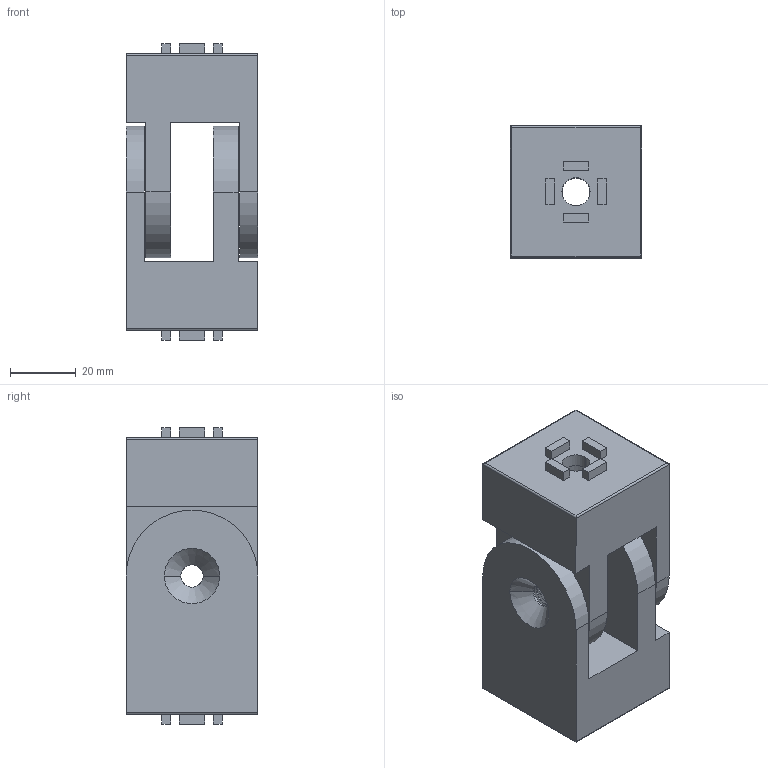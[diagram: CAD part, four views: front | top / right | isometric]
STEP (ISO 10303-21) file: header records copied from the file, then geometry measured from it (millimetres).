
FILE_DESCRIPTION (( 'STEP AP203' ), '1' );
FILE_NAME ('99-CE-HG4040-8.STEP', '2015-07-09T08:37:07', ( '' ), ( '' ), 'SwSTEP 2.0', 'SolidWorks 2013', '' );
FILE_SCHEMA (( 'CONFIG_CONTROL_DESIGN' ));
Length unit declared in the file: millimetre
Products named in the file (1): 99-CE-HG4040-8
Bounding box: 40 x 40 x 90 mm (x, y, z)
Surface area: 28826 mm2 (no closed solid volume)
Topology: 0 solids, 2 shells, 124 faces, 326 edges, 212 vertices
Faces by surface type: plane 60, cylinder 56, cone 4, bspline 4
Entity records: 5850 total; most frequent: CARTESIAN_POINT 2915, ORIENTED_EDGE 644, DIRECTION 526, EDGE_CURVE 326, VERTEX_POINT 212, VECTOR 204, LINE 204, AXIS2_PLACEMENT_3D 161
